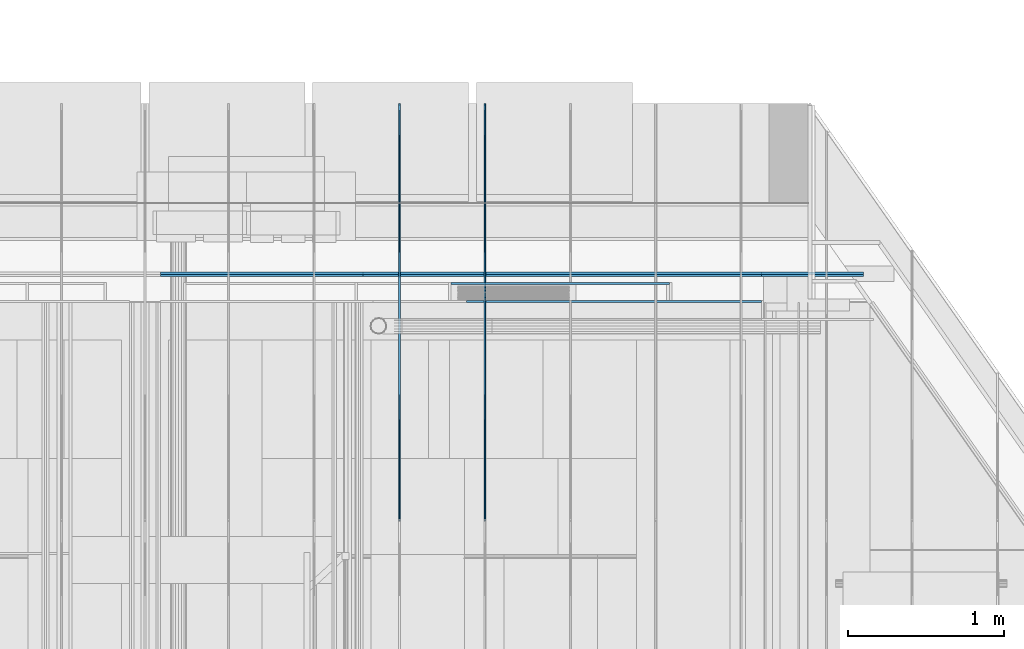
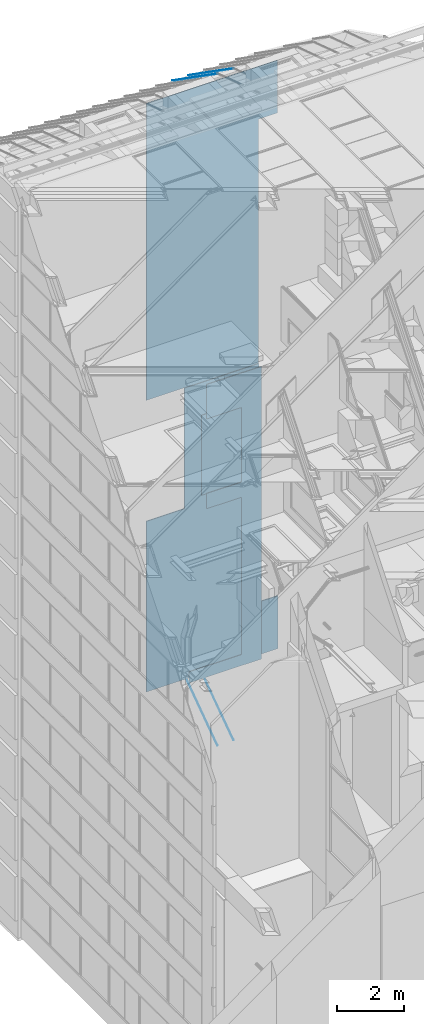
# One storey, part 292 of 583: 9 slabs.
"""IFC2X3 building model written with IfcOpenShell, lengths in metres."""

from ifc_helpers import new_model, entity, si_unit, converted_unit, derived_unit, money_unit, direction, frame, origin_with_axes, place, context, subcontext, project, spatial, faceted_brep, material, type_object, element, save


model = new_model("IFC2X3")

# Units and contexts
model_context = context("Model", 3, precision=1e-05, world=origin_with_axes(), true_north=direction((0.0, 1.0)))
body_context = subcontext(model_context, "Body", "Model", "MODEL_VIEW", scale=1.0)
ifc_project = project(units=[si_unit("LENGTHUNIT", "METRE"), si_unit("AREAUNIT", "SQUARE_METRE"), si_unit("VOLUMEUNIT", "CUBIC_METRE"), si_unit("ABSORBEDDOSEUNIT", "GRAY"), si_unit("AMOUNTOFSUBSTANCEUNIT", "MOLE"), si_unit("DOSEEQUIVALENTUNIT", "SIEVERT"), si_unit("ELECTRICCAPACITANCEUNIT", "FARAD"), si_unit("ELECTRICCHARGEUNIT", "COULOMB"), si_unit("ELECTRICCONDUCTANCEUNIT", "SIEMENS"), si_unit("ELECTRICCURRENTUNIT", "AMPERE"), si_unit("ELECTRICRESISTANCEUNIT", "OHM"), si_unit("ELECTRICVOLTAGEUNIT", "VOLT"), si_unit("ENERGYUNIT", "JOULE"), si_unit("FORCEUNIT", "NEWTON"), si_unit("FREQUENCYUNIT", "HERTZ"), si_unit("ILLUMINANCEUNIT", "LUX"), si_unit("INDUCTANCEUNIT", "HENRY"), si_unit("LUMINOUSFLUXUNIT", "LUMEN"), si_unit("LUMINOUSINTENSITYUNIT", "CANDELA"), si_unit("MAGNETICFLUXDENSITYUNIT", "TESLA"), si_unit("MAGNETICFLUXUNIT", "WEBER"), si_unit("MASSUNIT", "GRAM"), converted_unit("PLANEANGLEUNIT", "degree", entity("IfcReal", 0.0174532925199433), si_unit("PLANEANGLEUNIT", "RADIAN"), dimensions=[0, 0, 0, 0, 0, 0, 0]), si_unit("POWERUNIT", "WATT"), si_unit("PRESSUREUNIT", "PASCAL"), si_unit("RADIOACTIVITYUNIT", "BECQUEREL"), si_unit("SOLIDANGLEUNIT", "STERADIAN"), si_unit("THERMODYNAMICTEMPERATUREUNIT", "KELVIN"), si_unit("TIMEUNIT", "SECOND"), derived_unit("ACCELERATIONUNIT", [(si_unit("LENGTHUNIT", "METRE"), 1), (si_unit("TIMEUNIT", "SECOND"), -2)]), derived_unit("ANGULARVELOCITYUNIT", [(converted_unit("PLANEANGLEUNIT", "degree", entity("IfcReal", 0.0174532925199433), si_unit("PLANEANGLEUNIT", "RADIAN"), dimensions=[0, 0, 0, 0, 0, 0, 0]), 1), (si_unit("TIMEUNIT", "SECOND"), -1)]), derived_unit("CURVATUREUNIT", [(converted_unit("PLANEANGLEUNIT", "degree", entity("IfcReal", 0.0174532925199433), si_unit("PLANEANGLEUNIT", "RADIAN"), dimensions=[0, 0, 0, 0, 0, 0, 0]), 1), (si_unit("LENGTHUNIT", "METRE"), -1)]), derived_unit("DYNAMICVISCOSITYUNIT", [(si_unit("PRESSUREUNIT", "PASCAL"), 1), (si_unit("TIMEUNIT", "SECOND"), 1)]), derived_unit("HEATFLUXDENSITYUNIT", [(si_unit("POWERUNIT", "WATT"), 1), (si_unit("LENGTHUNIT", "METRE"), -2)]), derived_unit("HEATINGVALUEUNIT", [(si_unit("ENERGYUNIT", "JOULE"), 1), (si_unit("MASSUNIT", "GRAM"), -1)]), derived_unit("INTEGERCOUNTRATEUNIT", [(si_unit("TIMEUNIT", "SECOND"), -1)]), derived_unit("IONCONCENTRATIONUNIT", [(si_unit("MASSUNIT", "GRAM"), 1), (si_unit("VOLUMEUNIT", "CUBIC_METRE"), -1)]), derived_unit("ISOTHERMALMOISTURECAPACITYUNIT", [(si_unit("VOLUMEUNIT", "CUBIC_METRE"), 1), (si_unit("MASSUNIT", "GRAM"), -1)]), derived_unit("KINEMATICVISCOSITYUNIT", [(si_unit("AREAUNIT", "SQUARE_METRE"), 1), (si_unit("TIMEUNIT", "SECOND"), -1)]), derived_unit("LINEARFORCEUNIT", [(si_unit("FORCEUNIT", "NEWTON"), 1), (si_unit("LENGTHUNIT", "METRE"), -1)]), derived_unit("LINEARMOMENTUNIT", [(si_unit("FORCEUNIT", "NEWTON"), 1), (si_unit("LENGTHUNIT", "METRE"), -1)]), derived_unit("LINEARSTIFFNESSUNIT", [(si_unit("FORCEUNIT", "NEWTON"), 1), (si_unit("LENGTHUNIT", "METRE"), -1)]), derived_unit("LINEARVELOCITYUNIT", [(si_unit("LENGTHUNIT", "METRE"), 1), (si_unit("TIMEUNIT", "SECOND"), -1)]), derived_unit("LUMINOUSINTENSITYDISTRIBUTIONUNIT", [(si_unit("LUMINOUSINTENSITYUNIT", "CANDELA"), 1), (si_unit("LUMINOUSFLUXUNIT", "LUMEN"), -1)]), derived_unit("MASSDENSITYUNIT", [(si_unit("MASSUNIT", "GRAM"), 1), (si_unit("VOLUMEUNIT", "CUBIC_METRE"), -1)]), derived_unit("MASSFLOWRATEUNIT", [(si_unit("MASSUNIT", "GRAM"), 1), (si_unit("TIMEUNIT", "SECOND"), -1)]), derived_unit("MASSPERLENGTHUNIT", [(si_unit("MASSUNIT", "GRAM"), 1), (si_unit("LENGTHUNIT", "METRE"), -1)]), derived_unit("MODULUSOFELASTICITYUNIT", [(si_unit("FORCEUNIT", "NEWTON"), 1), (si_unit("AREAUNIT", "SQUARE_METRE"), -1)]), derived_unit("MODULUSOFLINEARSUBGRADEREACTIONUNIT", [(si_unit("FORCEUNIT", "NEWTON"), 1), (si_unit("LENGTHUNIT", "METRE"), -2)]), derived_unit("MODULUSOFROTATIONALSUBGRADEREACTIONUNIT", [(si_unit("FORCEUNIT", "NEWTON"), 1), (si_unit("LENGTHUNIT", "METRE"), 1)]), derived_unit("MODULUSOFSUBGRADEREACTIONUNIT", [(si_unit("FORCEUNIT", "NEWTON"), 1), (si_unit("VOLUMEUNIT", "CUBIC_METRE"), -1)]), derived_unit("MOISTUREDIFFUSIVITYUNIT", [(si_unit("VOLUMEUNIT", "CUBIC_METRE"), 1), (si_unit("TIMEUNIT", "SECOND"), -1)]), derived_unit("MOLECULARWEIGHTUNIT", [(si_unit("MASSUNIT", "GRAM"), 1), (si_unit("AMOUNTOFSUBSTANCEUNIT", "MOLE"), -1)]), derived_unit("PLANARFORCEUNIT", [(si_unit("FORCEUNIT", "NEWTON"), 1), (si_unit("LENGTHUNIT", "METRE"), -2)]), derived_unit("ROTATIONALFREQUENCYUNIT", [(si_unit("TIMEUNIT", "SECOND"), -1)]), derived_unit("ROTATIONALMASSUNIT", [(si_unit("MASSUNIT", "GRAM"), 1), (si_unit("LENGTHUNIT", "METRE"), 2)]), derived_unit("ROTATIONALSTIFFNESSUNIT", [(si_unit("FORCEUNIT", "NEWTON"), 1), (si_unit("LENGTHUNIT", "METRE"), 1), (converted_unit("PLANEANGLEUNIT", "degree", entity("IfcReal", 0.0174532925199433), si_unit("PLANEANGLEUNIT", "RADIAN"), dimensions=[0, 0, 0, 0, 0, 0, 0]), -1)]), derived_unit("SECTIONAREAINTEGRALUNIT", [(si_unit("LENGTHUNIT", "METRE"), 5)]), derived_unit("SECTIONMODULUSUNIT", [(si_unit("LENGTHUNIT", "METRE"), 3)]), derived_unit("SHEARMODULUSUNIT", [(si_unit("FORCEUNIT", "NEWTON"), 1), (si_unit("AREAUNIT", "SQUARE_METRE"), -1)]), derived_unit("SOUNDPOWERUNIT", [(si_unit("ENERGYUNIT", "JOULE"), 1), (si_unit("TIMEUNIT", "SECOND"), -1)]), derived_unit("SPECIFICHEATCAPACITYUNIT", [(si_unit("FORCEUNIT", "NEWTON"), 1), (si_unit("MASSUNIT", "GRAM"), -1), (si_unit("THERMODYNAMICTEMPERATUREUNIT", "KELVIN"), -1)]), derived_unit("TEMPERATUREGRADIENTUNIT", [(si_unit("THERMODYNAMICTEMPERATUREUNIT", "KELVIN"), 1), (si_unit("LENGTHUNIT", "METRE"), -1)]), derived_unit("THERMALADMITTANCEUNIT", [(si_unit("POWERUNIT", "WATT"), 1), (si_unit("AREAUNIT", "SQUARE_METRE"), -1), (si_unit("THERMODYNAMICTEMPERATUREUNIT", "KELVIN"), -1)]), derived_unit("THERMALCONDUCTANCEUNIT", [(si_unit("POWERUNIT", "WATT"), 1), (si_unit("LENGTHUNIT", "METRE"), -1), (si_unit("THERMODYNAMICTEMPERATUREUNIT", "KELVIN"), -1)]), derived_unit("THERMALEXPANSIONCOEFFICIENTUNIT", [(si_unit("THERMODYNAMICTEMPERATUREUNIT", "KELVIN"), -1)]), derived_unit("THERMALRESISTANCEUNIT", [(si_unit("AREAUNIT", "SQUARE_METRE"), 1), (si_unit("POWERUNIT", "WATT"), -1)]), derived_unit("THERMALTRANSMITTANCEUNIT", [(si_unit("POWERUNIT", "WATT"), 1), (si_unit("AREAUNIT", "SQUARE_METRE"), -1), (si_unit("THERMODYNAMICTEMPERATUREUNIT", "KELVIN"), -1)]), derived_unit("TORQUEUNIT", [(si_unit("FORCEUNIT", "NEWTON"), 1), (si_unit("LENGTHUNIT", "METRE"), 1)]), derived_unit("VAPORPERMEABILITYUNIT", [(si_unit("MASSUNIT", "GRAM"), 1), (si_unit("TIMEUNIT", "SECOND"), -1)]), derived_unit("VOLUMETRICFLOWRATEUNIT", [(si_unit("VOLUMEUNIT", "CUBIC_METRE"), 1), (si_unit("TIMEUNIT", "SECOND"), -1)]), derived_unit("WARPINGCONSTANTUNIT", [(si_unit("LENGTHUNIT", "METRE"), 6)]), derived_unit("WARPINGMOMENTUNIT", [(si_unit("FORCEUNIT", "NEWTON"), 1), (si_unit("LENGTHUNIT", "METRE"), 2)]), money_unit("GBP")], contexts=[model_context])

# Site, building, storey
site_placement = place(None, origin_with_axes())
site = spatial("IfcSite", under=ifc_project, at=site_placement, Name="Site", CompositionType="ELEMENT")
building_placement = place(site_placement, origin_with_axes())
building = spatial("IfcBuilding", under=site, at=building_placement, Name="Building01", CompositionType="ELEMENT")
storey_placement = place(building_placement, frame((0.0, 0.0, 20.78), z_axis=(0.0, 0.0, 1.0), x_axis=(1.0, 0.0, 0.0)))
storey = spatial("IfcBuildingStorey", under=building, at=storey_placement, Name="RL", CompositionType="ELEMENT", Elevation=20.78)

# Slabs
ifc_material_1 = material(Name="A_BSUK_CeilingSoffitFinishes_Suspended")
slab_type = type_object("IfcSlabType", Name="A-FloorsSlabs A_BSUK_Slabs", PredefinedType="FLOOR")
placement = place(storey_placement, frame((0.0, 0.0, -20.78), z_axis=(0.0, 0.0, 1.0), x_axis=(1.0, 0.0, 0.0)))
element("IfcSlab", 1, at=placement, inside=storey, type_object=slab_type, material=ifc_material_1, Name="A-FloorsSlabs A_BSUK_Slabs", ObjectType="CompoundSlabLeaf", context=body_context, shape_type="Brep", body=[
    faceted_brep([(10.8116, 20.295, 9.35), (10.8116, 20.31, 9.35), (10.8116, 20.31, 12.25), (10.8116, 20.295, 12.25), (9.4116, 20.295, 9.35), (9.4116, 20.31, 9.35), (9.4116, 20.295, 12.25), (9.4116, 20.31, 12.25)], [[[0, 1, 2, 3]], [[4, 5, 1, 0]], [[6, 7, 5, 4]], [[3, 2, 7, 6]], [[1, 5, 7, 2]], [[3, 6, 4, 0]]]),
])
element("IfcSlab", 2, at=placement, inside=storey, type_object=slab_type, material=ifc_material_1, Name="A-FloorsSlabs A_BSUK_Slabs", ObjectType="CompoundSlabLeaf", context=body_context, shape_type="Brep", body=[
    faceted_brep([(11.399939, 20.18, 2.798126), (11.399939, 20.195, 2.798126), (11.399939, 20.195, 4.760024), (11.399939, 20.18, 4.760024), (8.9116, 20.18, 2.798126), (8.9116, 20.195, 2.798126), (8.9116, 20.18, 3.2), (8.9116, 20.195, 3.2), (10.7116, 20.18, 3.2), (10.7116, 20.195, 3.2), (10.7116, 20.18, 8.9), (10.7116, 20.195, 8.9), (9.5116, 20.18, 8.9), (9.5116, 20.195, 8.9), (9.5116, 20.18, 9.45), (9.5116, 20.195, 9.45), (10.7116, 20.18, 9.450005), (10.7116, 20.195, 9.450005), (10.71161, 20.18, 12.150001), (10.71161, 20.195, 12.150001), (9.511601, 20.18, 12.15), (9.511601, 20.195, 12.15), (9.5116, 20.18, 13.4), (9.5116, 20.195, 13.4), (11.399939, 20.18, 13.4), (11.399939, 20.195, 13.4)], [[[0, 1, 2, 3]], [[4, 5, 1, 0]], [[6, 7, 5, 4]], [[8, 9, 7, 6]], [[10, 11, 9, 8]], [[12, 13, 11, 10]], [[14, 15, 13, 12]], [[16, 17, 15, 14]], [[18, 19, 17, 16]], [[20, 21, 19, 18]], [[22, 23, 21, 20]], [[24, 25, 23, 22]], [[3, 2, 25, 24]], [[1, 5, 7, 9, 11, 13, 15, 17, 19, 21, 23, 25, 2]], [[3, 24, 22, 20, 18, 16, 14, 12, 10, 8, 6, 4, 0]]]),
])
element("IfcSlab", 3, at=placement, inside=storey, type_object=slab_type, material=ifc_material_1, Name="A-FloorsSlabs A_BSUK_Slabs", ObjectType="CompoundSlabLeaf", context=body_context, shape_type="Brep", body=[
    faceted_brep([(7.55, 20.3468, 2.845596), (7.55, 20.3618, 2.845596), (12.054189, 20.3618, 2.845596), (12.054189, 20.3468, 2.845596), (7.55, 20.3468, 9.03), (7.55, 20.3618, 9.03), (8.847353, 20.3468, 9.03), (8.847353, 20.3618, 9.03), (8.847353, 20.3468, 13.4), (8.847353, 20.3618, 13.4), (11.399939, 20.3468, 13.4), (11.399939, 20.3618, 13.4), (11.399939, 20.3468, 4.760024), (11.399939, 20.3618, 4.760024), (12.054189, 20.3468, 4.760024), (12.054189, 20.3618, 4.760024)], [[[0, 1, 2, 3]], [[4, 5, 1, 0]], [[6, 7, 5, 4]], [[8, 9, 7, 6]], [[10, 11, 9, 8]], [[12, 13, 11, 10]], [[14, 15, 13, 12]], [[3, 2, 15, 14]], [[1, 5, 7, 9, 11, 13, 15, 2]], [[3, 14, 12, 10, 8, 6, 4, 0]]]),
])
element("IfcSlab", 4, at=placement, inside=storey, type_object=slab_type, material=ifc_material_1, Name="A-FloorsSlabs A_BSUK_Slabs", ObjectType="CompoundSlabLeaf", context=body_context, shape_type="Brep", body=[
    faceted_brep([(11.399939, 20.3618, 13.4), (11.399939, 20.3768, 13.4), (11.399939, 20.3768, 22.239976), (11.399939, 20.3618, 22.239976), (7.549915, 20.3618, 13.4), (7.549915, 20.3768, 13.4), (7.549915, 20.3618, 24.154404), (7.549915, 20.3768, 24.154404), (12.054189, 20.3618, 24.154404), (12.054189, 20.3768, 24.154404), (12.054189, 20.3618, 22.239976), (12.054189, 20.3768, 22.239976)], [[[0, 1, 2, 3]], [[4, 5, 1, 0]], [[6, 7, 5, 4]], [[8, 9, 7, 6]], [[10, 11, 9, 8]], [[3, 2, 11, 10]], [[1, 5, 7, 9, 11, 2]], [[3, 10, 8, 6, 4, 0]]]),
])
element("IfcSlab", 5, at=placement, inside=storey, type_object=slab_type, material=ifc_material_1, Name="A-FloorsSlabs A_BSUK_Slabs", ObjectType="CompoundSlabLeaf", context=body_context, shape_type="Brep", body=[
    faceted_brep([(7.55, 20.3618, 2.845596), (7.55, 20.3768, 2.845596), (12.054189, 20.3768, 2.845596), (12.054189, 20.3618, 2.845596), (7.55, 20.3618, 9.03), (7.55, 20.3768, 9.03), (8.847353, 20.3618, 9.03), (8.847353, 20.3768, 9.03), (8.847353, 20.3618, 13.4), (8.847353, 20.3768, 13.4), (11.399939, 20.3618, 13.4), (11.399939, 20.3768, 13.4), (11.399939, 20.3618, 4.760024), (11.399939, 20.3768, 4.760024), (12.054189, 20.3618, 4.760024), (12.054189, 20.3768, 4.760024)], [[[0, 1, 2, 3]], [[4, 5, 1, 0]], [[6, 7, 5, 4]], [[8, 9, 7, 6]], [[10, 11, 9, 8]], [[12, 13, 11, 10]], [[14, 15, 13, 12]], [[3, 2, 15, 14]], [[1, 5, 7, 9, 11, 13, 15, 2]], [[3, 14, 12, 10, 8, 6, 4, 0]]]),
])
ifc_material_2 = material(Name="A_BSUK_Roofs")
for number, where, z_axis, x_axis, name in (
    (6, (9.085953, 18.780461, -19.44574), (0.0, 1.0, 0.0), (0.0, 0.0, 1.0), "A-FloorsSlabs A_BSUK_Slabs"),
    (7, (9.633453, 18.780461, -19.44574), (0.0, 1.0, 0.0), (0.0, 0.0, 1.0), "A-FloorsSlabs A_BSUK_Slabs"),
):
    element("IfcSlab", number, at=place(storey_placement, frame(where, z_axis=z_axis, x_axis=x_axis)), inside=storey, type_object=slab_type, material=ifc_material_2, Name=name, ObjectType="A-FloorsSlabs A_BSUK_Slabs", context=body_context, shape_type="Brep", body=[
        faceted_brep([(0.0, 0.0, 0.0), (-0.016383, 0.0, 0.011472), (1.849297, 0.0, 2.675938), (1.86568, 0.0, 2.664467), (1.849297, -0.01, 2.675938), (1.86568, -0.01, 2.664467), (-0.016383, -0.01, 0.011472), (0.0, -0.01, 0.0)], [[[0, 1, 2, 3]], [[3, 2, 4, 5]], [[5, 4, 6, 7]], [[7, 6, 1, 0]], [[1, 6, 4, 2]], [[3, 5, 7, 0]]]),
    ])
element("IfcSlab", 8, at=placement, inside=storey, type_object=slab_type, material=ifc_material_2, Name="A-FloorsSlabs A_BSUK_Slabs", ObjectType="CompoundSlabLeaf", context=body_context, shape_type="Brep", body=[
    faceted_brep([(9.085953, 21.444928, 23.780061), (9.085953, 21.456399, 23.796444), (9.085953, 18.791933, 25.662123), (9.085953, 18.780461, 25.64574), (9.075953, 21.444928, 23.780061), (9.075953, 21.456399, 23.796444), (9.075953, 18.780461, 25.64574), (9.075953, 18.791933, 25.662123)], [[[0, 1, 2, 3]], [[4, 5, 1, 0]], [[6, 7, 5, 4]], [[3, 2, 7, 6]], [[1, 5, 7, 2]], [[3, 6, 4, 0]]]),
])
element("IfcSlab", 9, at=placement, inside=storey, type_object=slab_type, material=ifc_material_2, Name="A-FloorsSlabs A_BSUK_Slabs", ObjectType="CompoundSlabLeaf", context=body_context, shape_type="Brep", body=[
    faceted_brep([(9.633453, 21.444928, 23.780061), (9.633453, 21.456399, 23.796444), (9.633453, 18.791933, 25.662123), (9.633453, 18.780461, 25.64574), (9.623453, 21.444928, 23.780061), (9.623453, 21.456399, 23.796444), (9.623453, 18.780461, 25.64574), (9.623453, 18.791933, 25.662123)], [[[0, 1, 2, 3]], [[4, 5, 1, 0]], [[6, 7, 5, 4]], [[3, 2, 7, 6]], [[1, 5, 7, 2]], [[3, 6, 4, 0]]]),
])

save(model, "model.ifc")
